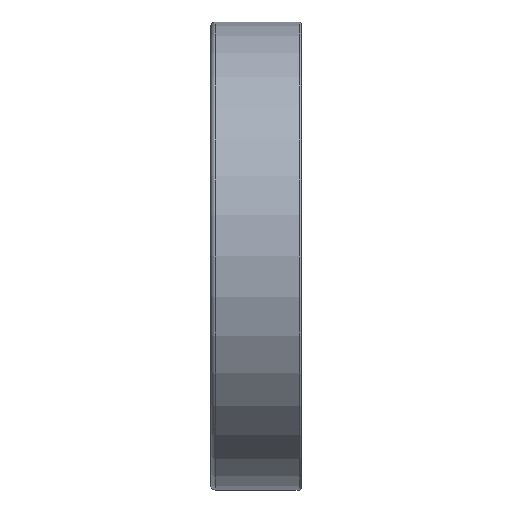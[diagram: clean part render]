
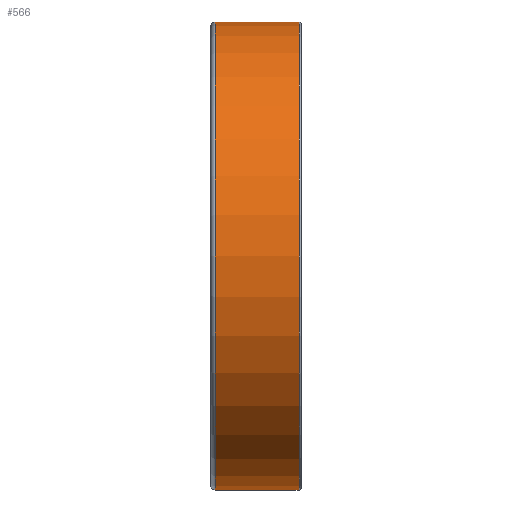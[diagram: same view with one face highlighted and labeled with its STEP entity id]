
A CAD part, front view. The second image highlights one B-rep face of the part: STEP entity #566.
In plain terms, the highlighted cylindrical face has radius 31 mm (diameter 62 mm), a full revolution.
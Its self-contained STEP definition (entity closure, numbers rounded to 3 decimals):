
#170=CYLINDRICAL_SURFACE('',#890,31.);
#274=EDGE_LOOP('',(#390));
#275=EDGE_LOOP('',(#391));
#390=ORIENTED_EDGE('',*,*,#456,.F.);
#391=ORIENTED_EDGE('',*,*,#454,.T.);
#454=EDGE_CURVE('',#815,#815,#474,.T.);
#456=EDGE_CURVE('',#817,#817,#476,.T.);
#474=CIRCLE('',#886,31.);
#476=CIRCLE('',#889,31.);
#566=ADVANCED_FACE('',(#713,#714),#170,.T.);
#713=FACE_BOUND('',#274,.T.);
#714=FACE_BOUND('',#275,.T.);
#815=VERTEX_POINT('',#3386);
#817=VERTEX_POINT('',#3391);
#886=AXIS2_PLACEMENT_3D('',#3385,#1017,#1018);
#889=AXIS2_PLACEMENT_3D('',#3390,#1023,#1024);
#890=AXIS2_PLACEMENT_3D('',#3392,#1025,#1026);
#1017=DIRECTION('',(1.,0.,0.));
#1018=DIRECTION('',(0.,0.,-1.));
#1023=DIRECTION('',(1.,0.,0.));
#1024=DIRECTION('',(0.,0.,-1.));
#1025=DIRECTION('',(1.,0.,0.));
#1026=DIRECTION('',(0.,0.,-1.));
#3385=CARTESIAN_POINT('',(-5.4,0.,0.));
#3386=CARTESIAN_POINT('',(-5.4,0.,-31.));
#3390=CARTESIAN_POINT('',(5.7,0.,0.));
#3391=CARTESIAN_POINT('',(5.7,0.,-31.));
#3392=CARTESIAN_POINT('',(-5.4,0.,0.));
